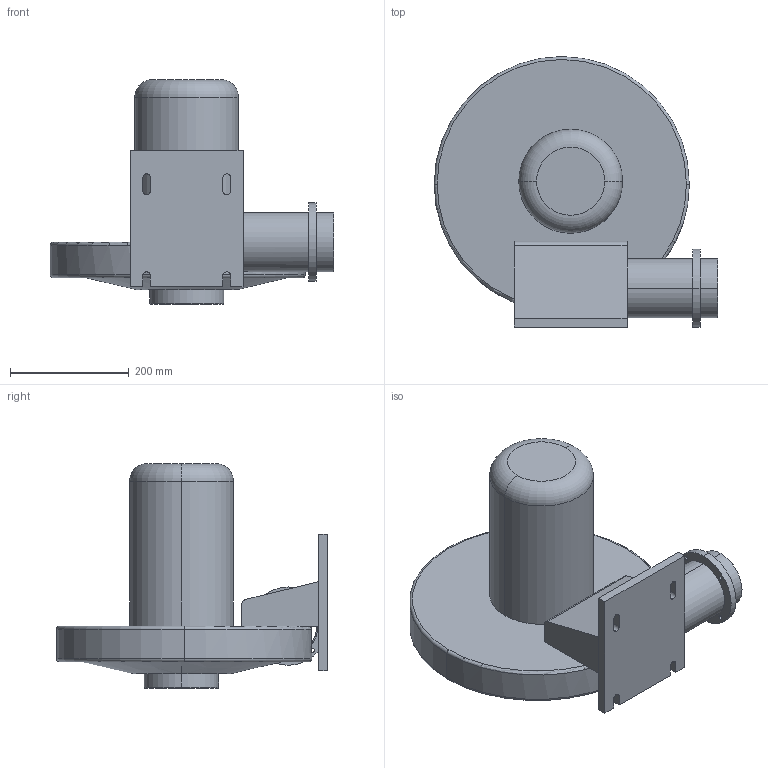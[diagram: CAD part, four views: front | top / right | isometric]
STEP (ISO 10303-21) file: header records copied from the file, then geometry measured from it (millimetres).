
FILE_DESCRIPTION (( 'STEP AP203' ), '1' );
FILE_NAME ('CX-750.STEP', '2019-04-25T09:04:15', ( 'User' ), ( 'www.dadighost.com' ), 'SwSTEP 2.0', 'SolidWorks 2014', '' );
FILE_SCHEMA (( 'CONFIG_CONTROL_DESIGN' ));
Length unit declared in the file: millimetre
Products named in the file (1): CX-750
Bounding box: 478.05 x 456.52 x 379 mm (x, y, z)
Volume: 18845926 mm3; surface area: 847255.9 mm2
Topology: 3 solids, 3 shells, 73 faces, 181 edges, 118 vertices
Faces by surface type: cylinder 31, plane 31, torus 9, cone 2
Entity records: 2442 total; most frequent: CARTESIAN_POINT 531, DIRECTION 407, ORIENTED_EDGE 362, EDGE_CURVE 181, AXIS2_PLACEMENT_3D 158, VERTEX_POINT 118, EDGE_LOOP 91, VECTOR 91
